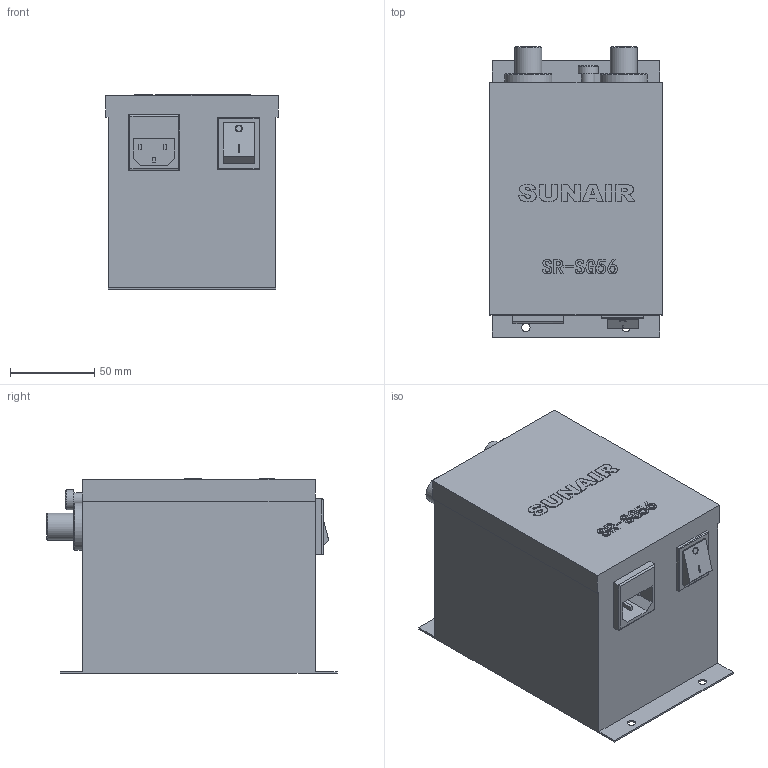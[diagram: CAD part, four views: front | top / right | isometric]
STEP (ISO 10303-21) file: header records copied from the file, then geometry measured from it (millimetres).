
FILE_DESCRIPTION (( 'STEP AP203' ), '1' );
FILE_NAME ('SR-SG56.STEP', '2024-01-15T03:00:12', ( '微软用户' ), ( '微软中国' ), 'SwSTEP 2.0', 'SolidWorks 2021', '' );
FILE_SCHEMA (( 'CONFIG_CONTROL_DESIGN' ));
Length unit declared in the file: millimetre
Products named in the file (1): SR-SG56
Bounding box: 102.5 x 172 x 115.5 mm (x, y, z)
Volume: 1589461.4 mm3; surface area: 98815 mm2
Topology: 1 solids, 1 shells, 295 faces, 756 edges, 499 vertices
Faces by surface type: plane 181, bspline 85, cylinder 22, cone 7
Full cylindrical faces by diameter (mm): 3.507 x1, 4.075 x1, 5 x4, 8 x1, 9.8 x2, 12 x1, 16 x2, 28 x2
Entity records: 12202 total; most frequent: CARTESIAN_POINT 5618, ORIENTED_EDGE 1464, DIRECTION 1009, EDGE_CURVE 732, LINE 521, VECTOR 521, VERTEX_POINT 497, EDGE_LOOP 361
